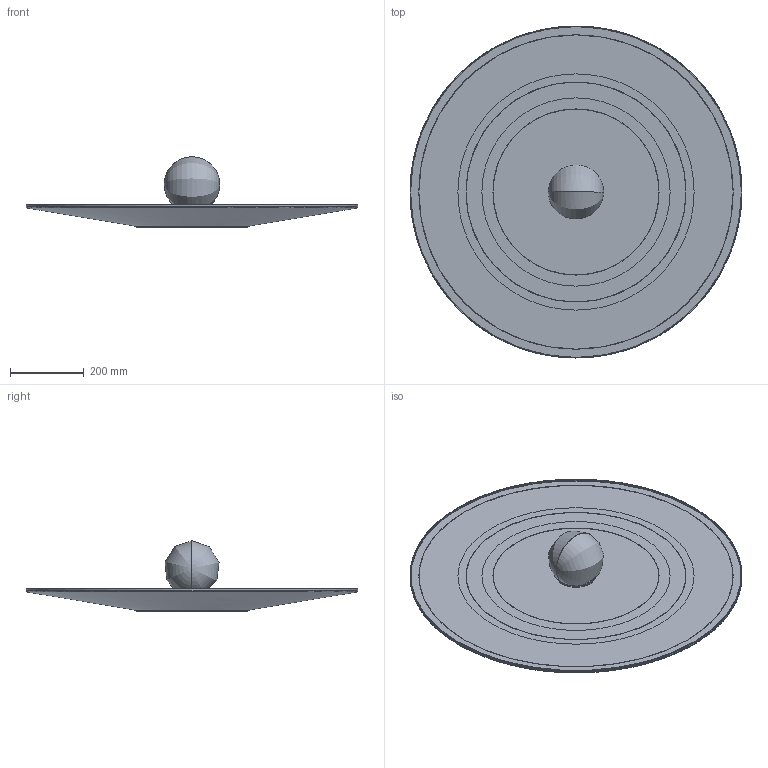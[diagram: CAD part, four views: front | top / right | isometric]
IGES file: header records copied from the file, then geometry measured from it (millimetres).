
Start section: SolidWorks IGES file using analytic representation for surfaces
Global section: file name: \\192.168.0.53\Reserch Development\SITO WEB\2024\File 2D 3D\Prodotti\Caricamenti\Cartelle non compresse\Caleide Eos\De Castelli-3D-Caleide Eos 90.IGS; native system: SolidWorks 2025; preprocessor: SolidWorks 2025; author: lauraa; date: 260514.094512; units: millimetre
Bounding box: 900 x 900 x 190.53 mm (x, y, z)
Surface area: 1484571.8 mm2 (no closed solid volume)
Topology: 0 solids, 0 shells, 123 faces, 3407 edges, 3406 vertices
Faces by surface type: revolution 80, bspline 43
